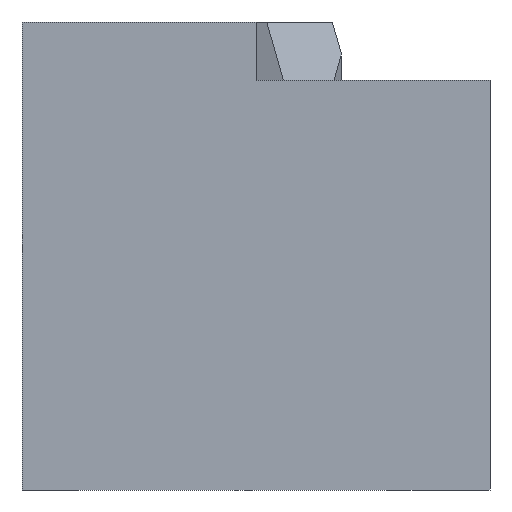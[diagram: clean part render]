
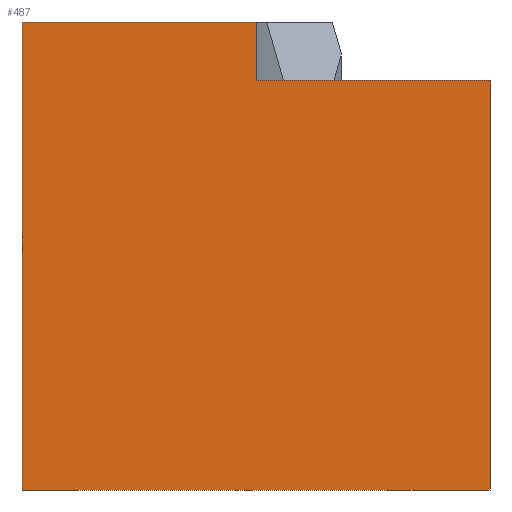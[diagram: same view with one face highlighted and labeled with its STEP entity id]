
A CAD part, front view. The second image highlights one B-rep face of the part: STEP entity #487.
In plain terms, the highlighted planar face has unit normal (0, -1, 0).
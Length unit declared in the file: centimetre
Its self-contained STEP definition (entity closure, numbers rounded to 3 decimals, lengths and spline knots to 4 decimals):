
#1 = VERTEX_POINT ( 'NONE', #71 ) ;
#33 = ORIENTED_EDGE ( 'NONE', *, *, #118, .T. ) ;
#34 = LINE ( 'NONE', #633, #664 ) ;
#59 = CARTESIAN_POINT ( 'NONE',  ( 1000., 0., 875.4121 ) ) ;
#62 = DIRECTION ( 'NONE',  ( 0., 1., 0. ) ) ;
#71 = CARTESIAN_POINT ( 'NONE',  ( 0., 0., 1000. ) ) ;
#73 = EDGE_CURVE ( 'NONE', #522, #155, #682, .T. ) ;
#87 = ORIENTED_EDGE ( 'NONE', *, *, #73, .F. ) ;
#103 = FACE_OUTER_BOUND ( 'NONE', #365, .T. ) ;
#118 = EDGE_CURVE ( 'NONE', #1, #514, #369, .T. ) ;
#124 = ORIENTED_EDGE ( 'NONE', *, *, #288, .F. ) ;
#142 = VECTOR ( 'NONE', #665, 100. ) ;
#155 = VERTEX_POINT ( 'NONE', #256 ) ;
#160 = CARTESIAN_POINT ( 'NONE',  ( 0., 0., 1000. ) ) ;
#225 = CARTESIAN_POINT ( 'NONE',  ( 0., 0., 0. ) ) ;
#245 = DIRECTION ( 'NONE',  ( 1., 0., 0. ) ) ;
#251 = LINE ( 'NONE', #393, #281 ) ;
#256 = CARTESIAN_POINT ( 'NONE',  ( 1000., 0., 0. ) ) ;
#270 = VECTOR ( 'NONE', #429, 100. ) ;
#281 = VECTOR ( 'NONE', #245, 100. ) ;
#288 = EDGE_CURVE ( 'NONE', #1, #363, #34, .T. ) ;
#326 = CARTESIAN_POINT ( 'NONE',  ( 500., 0., 875.4121 ) ) ;
#327 = DIRECTION ( 'NONE',  ( 1., 0., 0. ) ) ;
#345 = ORIENTED_EDGE ( 'NONE', *, *, #364, .T. ) ;
#361 = ORIENTED_EDGE ( 'NONE', *, *, #543, .T. ) ;
#363 = VERTEX_POINT ( 'NONE', #521 ) ;
#364 = EDGE_CURVE ( 'NONE', #578, #363, #638, .T. ) ;
#365 = EDGE_LOOP ( 'NONE', ( #713, #345, #124, #33, #361, #87 ) ) ;
#369 = LINE ( 'NONE', #531, #142 ) ;
#381 = DIRECTION ( 'NONE',  ( 0., 0., -1. ) ) ;
#393 = CARTESIAN_POINT ( 'NONE',  ( 500., 0., 875.4121 ) ) ;
#412 = PLANE ( 'NONE',  #628 ) ;
#426 = LINE ( 'NONE', #544, #270 ) ;
#429 = DIRECTION ( 'NONE',  ( 1., 0., 0. ) ) ;
#430 = CARTESIAN_POINT ( 'NONE',  ( 1000., 0., 1000. ) ) ;
#487 = ADVANCED_FACE ( 'NONE', ( #103 ), #412, .F. ) ;
#514 = VERTEX_POINT ( 'NONE', #225 ) ;
#521 = CARTESIAN_POINT ( 'NONE',  ( 500., 0., 1000. ) ) ;
#522 = VERTEX_POINT ( 'NONE', #59 ) ;
#531 = CARTESIAN_POINT ( 'NONE',  ( 0., 0., 1000. ) ) ;
#543 = EDGE_CURVE ( 'NONE', #514, #155, #426, .T. ) ;
#544 = CARTESIAN_POINT ( 'NONE',  ( 0., 0., 0. ) ) ;
#557 = VECTOR ( 'NONE', #381, 100. ) ;
#578 = VERTEX_POINT ( 'NONE', #326 ) ;
#628 = AXIS2_PLACEMENT_3D ( 'NONE', #160, #62, #721 ) ;
#633 = CARTESIAN_POINT ( 'NONE',  ( 0., 0., 1000. ) ) ;
#638 = LINE ( 'NONE', #744, #675 ) ;
#646 = EDGE_CURVE ( 'NONE', #578, #522, #251, .T. ) ;
#664 = VECTOR ( 'NONE', #327, 100. ) ;
#665 = DIRECTION ( 'NONE',  ( 0., 0., -1. ) ) ;
#675 = VECTOR ( 'NONE', #705, 100. ) ;
#682 = LINE ( 'NONE', #430, #557 ) ;
#705 = DIRECTION ( 'NONE',  ( 0., 0., 1. ) ) ;
#713 = ORIENTED_EDGE ( 'NONE', *, *, #646, .F. ) ;
#721 = DIRECTION ( 'NONE',  ( 0., 0., 1. ) ) ;
#744 = CARTESIAN_POINT ( 'NONE',  ( 500., 0., 875.4121 ) ) ;
